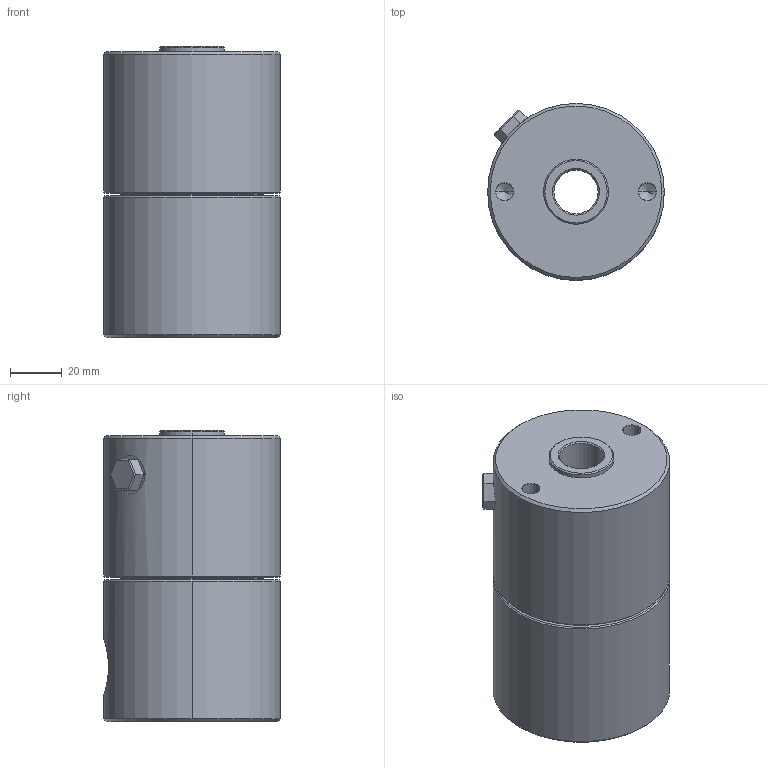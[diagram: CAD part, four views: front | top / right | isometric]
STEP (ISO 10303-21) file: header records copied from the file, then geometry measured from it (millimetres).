
FILE_DESCRIPTION (( 'STEP AP203' ), '1' );
FILE_NAME ('4610-312.STEP', '2016-01-29T10:18:01', ( '' ), ( '' ), 'SwSTEP 2.0', 'SolidWorks 2015', '' );
FILE_SCHEMA (( 'CONFIG_CONTROL_DESIGN' ));
Length unit declared in the file: millimetre
Products named in the file (1): 4610-312
Bounding box: 68 x 68 x 112 mm (x, y, z)
Volume: 369319.3 mm3; surface area: 40596.1 mm2
Topology: 1 solids, 1 shells, 73 faces, 156 edges, 89 vertices
Faces by surface type: cone 26, cylinder 22, plane 21, torus 4
Entity records: 2216 total; most frequent: CARTESIAN_POINT 554, DIRECTION 358, ORIENTED_EDGE 300, EDGE_CURVE 150, AXIS2_PLACEMENT_3D 140, VERTEX_POINT 89, EDGE_LOOP 85, LINE 78
